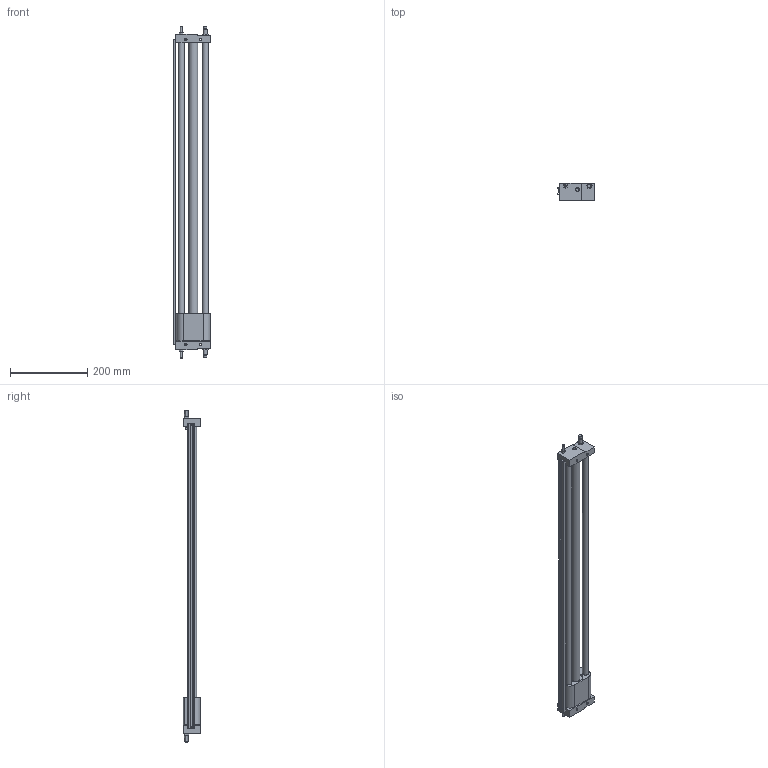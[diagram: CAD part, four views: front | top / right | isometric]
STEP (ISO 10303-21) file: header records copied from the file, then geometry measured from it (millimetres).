
FILE_DESCRIPTION( ( 'STEP AP214' ), '1' );
FILE_NAME( 'C:/Users/EMC02301/Desktop/729/ESWT20X700-S-B.stp', '2026-07-29T03:55:06', ( 'License CC BY-ND 4.0' ), ( 'CADENAS' ), ' ', 'PARTsolutions', ' ' );
FILE_SCHEMA( ( 'AUTOMOTIVE_DESIGN { 1 0 10303 214 1 1 1 1 }' ) );
Length unit declared in the file: millimetre
Products named in the file (4): ESWT20X700-S-B()(0); _ESWT20X700-S-B(0)()_dummy; _ESWT20X700-S-B(0)()_ROD; _ESWT20X700(0)()_BODY
Assembly tree (3 placements, depth 2):
  ESWT20X700-S-B()(0)
    _ESWT20X700-S-B(0)()_dummy
    _ESWT20X700-S-B(0)()_ROD
    _ESWT20X700(0)()_BODY
Bounding box: 96.5 x 46 x 860 mm (x, y, z)
Volume: 1018843.8 mm3; surface area: 253233 mm2
Topology: 2 solids, 5 shells, 200 faces, 432 edges, 281 vertices
Faces by surface type: plane 114, cylinder 49, cone 35, torus 2
Full cylindrical faces by diameter (mm): 3 x2, 3.5 x2, 4.134 x4, 4.917 x8, 5.5 x4, 5.8 x2, 6 x4, 8.5 x2, 8.566 x2, 9.5 x4, 9.6 x2, 10 x2, 16 x4, 22.8 x2, 38 x2
Entity records: 6583 total; most frequent: DIRECTION 879, CARTESIAN_POINT 804, ORIENTED_EDGE 668, EDGE_LOOP 343, AXIS2_PLACEMENT_3D 341, EDGE_CURVE 334, VERTEX_POINT 265, FACE_OUTER_BOUND 248
